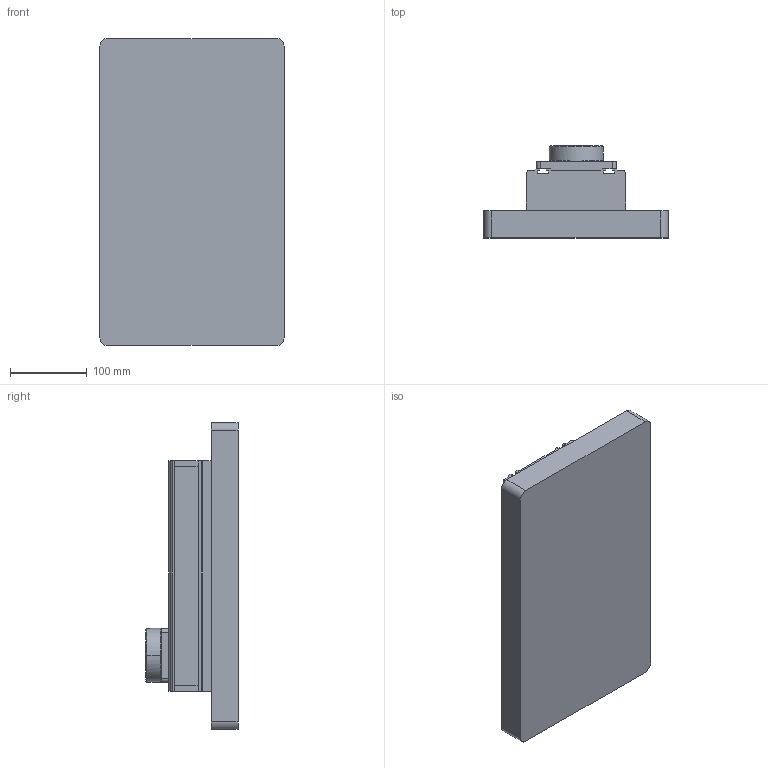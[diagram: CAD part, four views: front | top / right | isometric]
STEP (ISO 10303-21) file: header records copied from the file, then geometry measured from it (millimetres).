
FILE_DESCRIPTION (( 'STEP AP203' ), '1' );
FILE_NAME ('TXP240-400-V4.STEP', '2021-03-17T02:32:47', ( '' ), ( '' ), 'SwSTEP 2.0', 'SolidWorks 2014', '' );
FILE_SCHEMA (( 'CONFIG_CONTROL_DESIGN' ));
Length unit declared in the file: millimetre
Products named in the file (3): TVG240x400-A3R3-SG2-VAT40; 2渡楊擘; TXP240-400-V4
Assembly tree (2 placements, depth 2):
  TXP240-400-V4
    TVG240x400-A3R3-SG2-VAT40
    2渡楊擘
Bounding box: 240 x 120 x 400 mm (x, y, z)
Volume: 5508375.9 mm3; surface area: 319417.8 mm2
Topology: 3 solids, 3 shells, 163 faces, 444 edges, 294 vertices
Faces by surface type: plane 99, cylinder 51, cone 13
Entity records: 5485 total; most frequent: CARTESIAN_POINT 954, DIRECTION 912, ORIENTED_EDGE 888, EDGE_CURVE 444, AXIS2_PLACEMENT_3D 316, VERTEX_POINT 294, VECTOR 280, LINE 280
